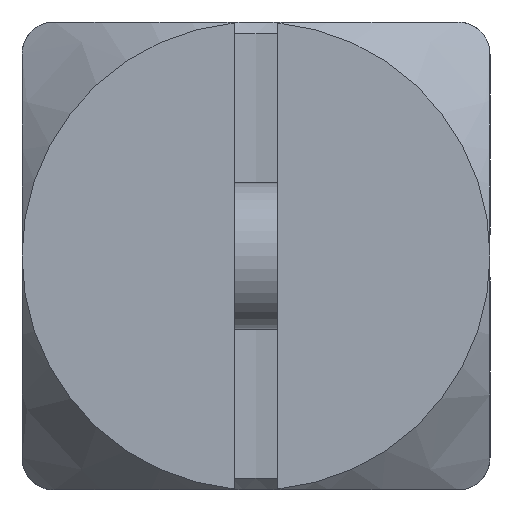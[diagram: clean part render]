
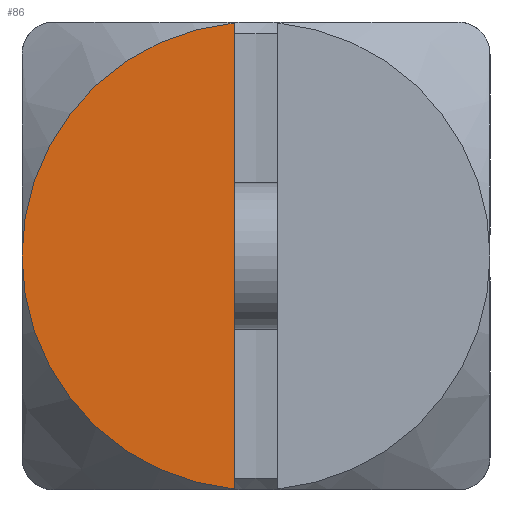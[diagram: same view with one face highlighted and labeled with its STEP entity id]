
A CAD part, left-side view. The second image highlights one B-rep face of the part: STEP entity #86.
In plain terms, the highlighted planar face has unit normal (-1, 0, 0).
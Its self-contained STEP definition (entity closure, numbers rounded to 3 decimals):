
#86 = ADVANCED_FACE( '', ( #188 ), #189, .F. );
#188 = FACE_OUTER_BOUND( '', #388, .T. );
#189 = PLANE( '', #389 );
#388 = EDGE_LOOP( '', ( #677, #678, #679 ) );
#389 = AXIS2_PLACEMENT_3D( '', #680, #681, #682 );
#677 = ORIENTED_EDGE( '', *, *, #1264, .F. );
#678 = ORIENTED_EDGE( '', *, *, #1292, .F. );
#679 = ORIENTED_EDGE( '', *, *, #1293, .F. );
#680 = CARTESIAN_POINT( '', ( -17., 8., 8. ) );
#681 = DIRECTION( '', ( 1., 0., 0. ) );
#682 = DIRECTION( '', ( 0., 0., -1. ) );
#1264 = EDGE_CURVE( '', #1506, #1508, #1509, .T. );
#1292 = EDGE_CURVE( '', #1555, #1506, #1556, .T. );
#1293 = EDGE_CURVE( '', #1508, #1555, #1557, .T. );
#1506 = VERTEX_POINT( '', #1960 );
#1508 = VERTEX_POINT( '', #1965 );
#1509 = LINE( '', #1966, #1967 );
#1555 = VERTEX_POINT( '', #2094 );
#1556 = CIRCLE( '', #2095, 8. );
#1557 = CIRCLE( '', #2096, 8. );
#1960 = CARTESIAN_POINT( '', ( -17., 0.75, 7.965 ) );
#1965 = CARTESIAN_POINT( '', ( -17., 0.75, -7.965 ) );
#1966 = CARTESIAN_POINT( '', ( -17., 0.75, 8. ) );
#1967 = VECTOR( '', #2586, 1000. );
#2094 = CARTESIAN_POINT( '', ( -17., 8., 0. ) );
#2095 = AXIS2_PLACEMENT_3D( '', #2623, #2624, #2625 );
#2096 = AXIS2_PLACEMENT_3D( '', #2626, #2627, #2628 );
#2586 = DIRECTION( '', ( 0., 0., -1. ) );
#2623 = CARTESIAN_POINT( '', ( -17., 0., 0. ) );
#2624 = DIRECTION( '', ( 1., 0., 0. ) );
#2625 = DIRECTION( '', ( 0., 0., -1. ) );
#2626 = CARTESIAN_POINT( '', ( -17., 0., 0. ) );
#2627 = DIRECTION( '', ( 1., 0., 0. ) );
#2628 = DIRECTION( '', ( 0., 0., -1. ) );
